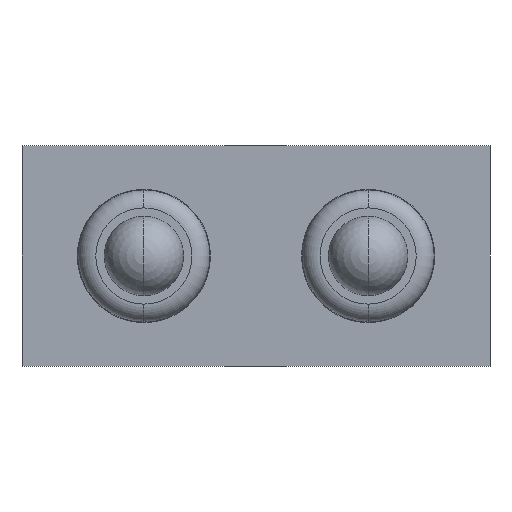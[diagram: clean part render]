
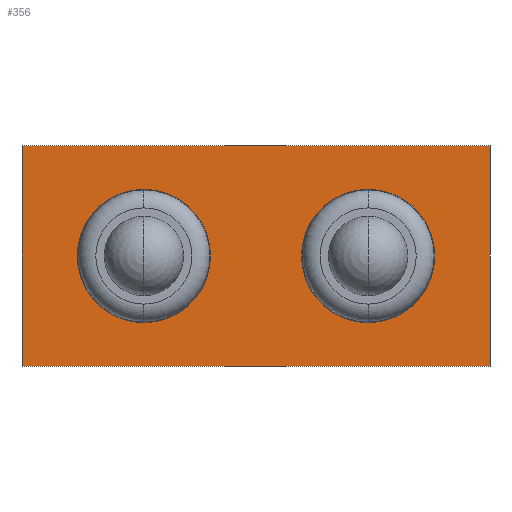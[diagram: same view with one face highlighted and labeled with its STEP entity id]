
A CAD part, front view. The second image highlights one B-rep face of the part: STEP entity #356.
In plain terms, the highlighted planar face has unit normal (0, -1, 0).
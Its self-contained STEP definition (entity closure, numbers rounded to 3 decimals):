
#1=CARTESIAN_POINT('',(-1.27,0.,0.));
#2=DIRECTION('',(0.,-1.,0.));
#3=DIRECTION('',(1.,0.,0.));
#4=AXIS2_PLACEMENT_3D('',#1,#2,#3);
#6=CARTESIAN_POINT('',(-1.27,0.,0.));
#7=DIRECTION('',(0.,-1.,0.));
#8=DIRECTION('',(-1.,0.,0.));
#9=AXIS2_PLACEMENT_3D('',#6,#7,#8);
#11=CARTESIAN_POINT('',(1.27,0.,0.));
#12=DIRECTION('',(0.,-1.,0.));
#13=DIRECTION('',(1.,0.,0.));
#14=AXIS2_PLACEMENT_3D('',#11,#12,#13);
#16=CARTESIAN_POINT('',(1.27,0.,0.));
#17=DIRECTION('',(0.,-1.,0.));
#18=DIRECTION('',(-1.,0.,0.));
#19=AXIS2_PLACEMENT_3D('',#16,#17,#18);
#21=DIRECTION('',(0.,0.,1.));
#22=VECTOR('',#21,2.5);
#23=CARTESIAN_POINT('',(-2.65,0.,-1.25));
#24=LINE('',#23,#22);
#25=DIRECTION('',(1.,0.,0.));
#26=VECTOR('',#25,5.3);
#27=CARTESIAN_POINT('',(-2.65,0.,1.25));
#28=LINE('',#27,#26);
#29=DIRECTION('',(0.,0.,-1.));
#30=VECTOR('',#29,2.5);
#31=CARTESIAN_POINT('',(2.65,0.,1.25));
#32=LINE('',#31,#30);
#33=DIRECTION('',(-1.,0.,0.));
#34=VECTOR('',#33,5.3);
#35=CARTESIAN_POINT('',(2.65,0.,-1.25));
#36=LINE('',#35,#34);
#249=CARTESIAN_POINT('',(-0.515,0.,0.));
#250=CARTESIAN_POINT('',(-2.025,0.,0.));
#251=VERTEX_POINT('',#249);
#252=VERTEX_POINT('',#250);
#253=CARTESIAN_POINT('',(2.025,0.,0.));
#254=CARTESIAN_POINT('',(0.515,0.,0.));
#255=VERTEX_POINT('',#253);
#256=VERTEX_POINT('',#254);
#257=CARTESIAN_POINT('',(-2.65,0.,-1.25));
#258=CARTESIAN_POINT('',(-2.65,0.,1.25));
#259=VERTEX_POINT('',#257);
#260=VERTEX_POINT('',#258);
#261=CARTESIAN_POINT('',(2.65,0.,1.25));
#262=VERTEX_POINT('',#261);
#263=CARTESIAN_POINT('',(2.65,0.,-1.25));
#264=VERTEX_POINT('',#263);
#329=CARTESIAN_POINT('',(0.,0.,0.));
#330=DIRECTION('',(0.,1.,0.));
#331=DIRECTION('',(1.,0.,0.));
#332=AXIS2_PLACEMENT_3D('',#329,#330,#331);
#333=PLANE('',#332);
#335=ORIENTED_EDGE('',*,*,#334,.T.);
#337=ORIENTED_EDGE('',*,*,#336,.T.);
#339=ORIENTED_EDGE('',*,*,#338,.T.);
#341=ORIENTED_EDGE('',*,*,#340,.T.);
#342=EDGE_LOOP('',(#335,#337,#339,#341));
#343=FACE_OUTER_BOUND('',#342,.F.);
#345=ORIENTED_EDGE('',*,*,#344,.T.);
#347=ORIENTED_EDGE('',*,*,#346,.T.);
#348=EDGE_LOOP('',(#345,#347));
#349=FACE_BOUND('',#348,.F.);
#351=ORIENTED_EDGE('',*,*,#350,.T.);
#353=ORIENTED_EDGE('',*,*,#352,.T.);
#354=EDGE_LOOP('',(#351,#353));
#355=FACE_BOUND('',#354,.F.);
#356=ADVANCED_FACE('',(#343,#349,#355),#333,.F.);
#5=CIRCLE('',#4,0.755);
#10=CIRCLE('',#9,0.755);
#15=CIRCLE('',#14,0.755);
#20=CIRCLE('',#19,0.755);
#334=EDGE_CURVE('',#259,#260,#24,.T.);
#336=EDGE_CURVE('',#260,#262,#28,.T.);
#338=EDGE_CURVE('',#262,#264,#32,.T.);
#340=EDGE_CURVE('',#264,#259,#36,.T.);
#344=EDGE_CURVE('',#255,#256,#15,.T.);
#346=EDGE_CURVE('',#256,#255,#20,.T.);
#350=EDGE_CURVE('',#251,#252,#5,.T.);
#352=EDGE_CURVE('',#252,#251,#10,.T.);
